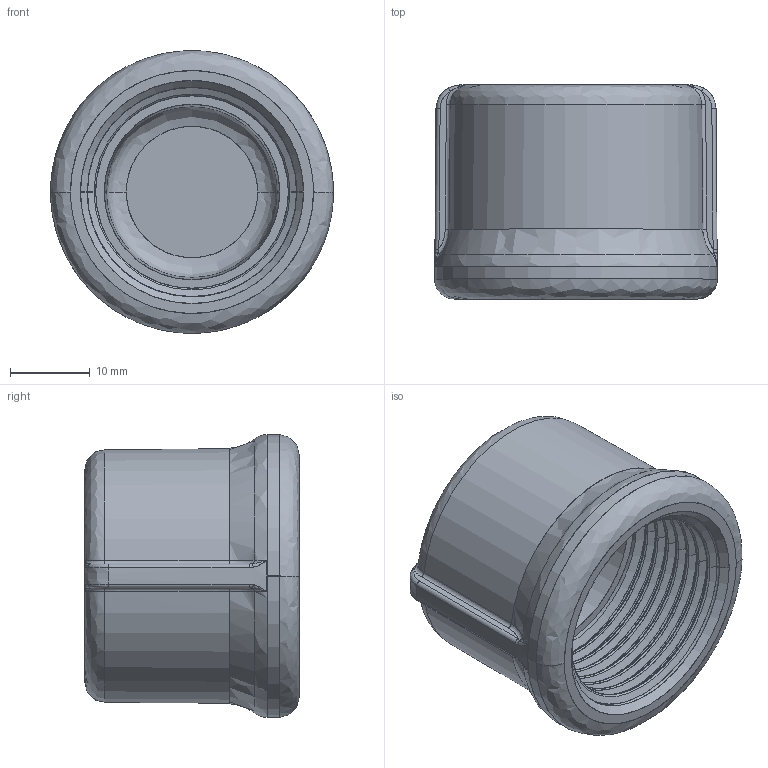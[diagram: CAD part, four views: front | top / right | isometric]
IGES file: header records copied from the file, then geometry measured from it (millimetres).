
Start section: SolidWorks IGES file using analytic representation for surfaces
Global section: file name: C:\Users\Joel Rosa\Desktop\Tubulação\12-42-XXX\12-42-006.IGS; native system: SolidWorks 2011; preprocessor: SolidWorks 2011; author: Joel Rosa; date: 131001.194608; units: millimetre
Bounding box: 35.4 x 26.8 x 35.4 mm (x, y, z)
Surface area: 6704.2 mm2 (no closed solid volume)
Topology: 0 solids, 0 shells, 256 faces, 2796 edges, 2796 vertices
Faces by surface type: bspline 210, revolution 46
